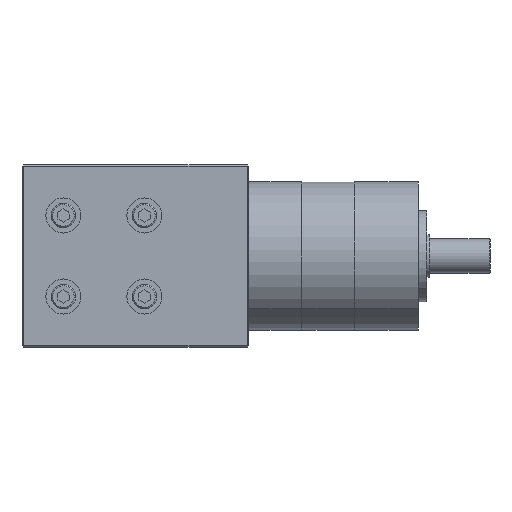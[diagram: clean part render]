
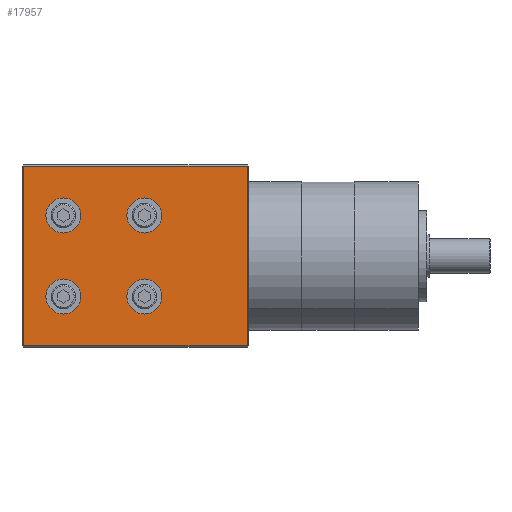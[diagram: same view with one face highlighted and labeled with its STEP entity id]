
A CAD part, front view. The second image highlights one B-rep face of the part: STEP entity #17957.
In plain terms, the highlighted planar face has unit normal (0, -1, 0).
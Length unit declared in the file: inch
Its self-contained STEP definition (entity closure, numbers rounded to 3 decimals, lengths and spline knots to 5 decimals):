
#215 = ORIENTED_EDGE ( 'NONE', *, *, #23178, .T. ) ;
#310 = AXIS2_PLACEMENT_3D ( 'NONE', #14259, #24760, #10077 ) ;
#694 = ORIENTED_EDGE ( 'NONE', *, *, #1891, .F. ) ;
#1035 = LINE ( 'NONE', #20815, #11475 ) ;
#1061 = EDGE_CURVE ( 'NONE', #2663, #8273, #1568, .T. ) ;
#1100 = EDGE_CURVE ( 'NONE', #3900, #26569, #22114, .T. ) ;
#1465 = CARTESIAN_POINT ( 'NONE',  ( 4.78104, -0.3548, 2.94555 ) ) ;
#1568 = CIRCLE ( 'NONE', #13680, 0.24094 ) ;
#1820 = CARTESIAN_POINT ( 'NONE',  ( 4.80104, -0.3548, 2.94555 ) ) ;
#1840 = CARTESIAN_POINT ( 'NONE',  ( 7.87404, -0.3548, 0.46555 ) ) ;
#1891 = EDGE_CURVE ( 'NONE', #6951, #12313, #6034, .T. ) ;
#1984 = ORIENTED_EDGE ( 'NONE', *, *, #25213, .F. ) ;
#2663 = VERTEX_POINT ( 'NONE', #3634 ) ;
#3014 = CARTESIAN_POINT ( 'NONE',  ( 6.46289, -0.3548, 1.13871 ) ) ;
#3076 = EDGE_LOOP ( 'NONE', ( #13886, #11147 ) ) ;
#3185 = CARTESIAN_POINT ( 'NONE',  ( 5.34919, -0.3548, 1.13871 ) ) ;
#3354 = DIRECTION ( 'NONE',  ( 0., -1., 0. ) ) ;
#3507 = DIRECTION ( 'NONE',  ( 0., 0., -1. ) ) ;
#3634 = CARTESIAN_POINT ( 'NONE',  ( 5.34919, -0.3548, 2.01145 ) ) ;
#3799 = CIRCLE ( 'NONE', #24529, 0.24094 ) ;
#3900 = VERTEX_POINT ( 'NONE', #21223 ) ;
#4189 = EDGE_CURVE ( 'NONE', #21489, #18710, #4280, .T. ) ;
#4280 = CIRCLE ( 'NONE', #310, 0.24094 ) ;
#4614 = DIRECTION ( 'NONE',  ( 0., 0., -1. ) ) ;
#4794 = DIRECTION ( 'NONE',  ( 0., -1., 0. ) ) ;
#4852 = CARTESIAN_POINT ( 'NONE',  ( 4.80104, -0.3548, 2.92555 ) ) ;
#5012 = EDGE_LOOP ( 'NONE', ( #20231, #8045, #215, #5752 ) ) ;
#5200 = DIRECTION ( 'NONE',  ( 0., 0., -1. ) ) ;
#5458 = LINE ( 'NONE', #23604, #13958 ) ;
#5520 = CARTESIAN_POINT ( 'NONE',  ( 4.78104, -0.3548, 0.46555 ) ) ;
#5742 = CARTESIAN_POINT ( 'NONE',  ( 5.34919, -0.3548, 1.37965 ) ) ;
#5752 = ORIENTED_EDGE ( 'NONE', *, *, #8557, .T. ) ;
#5912 = DIRECTION ( 'NONE',  ( -1., 0., 0. ) ) ;
#6034 = CIRCLE ( 'NONE', #23316, 0.24094 ) ;
#6503 = AXIS2_PLACEMENT_3D ( 'NONE', #1465, #9489, #18143 ) ;
#6951 = VERTEX_POINT ( 'NONE', #23787 ) ;
#6972 = EDGE_CURVE ( 'NONE', #26569, #12717, #5458, .T. ) ;
#7202 = DIRECTION ( 'NONE',  ( 0., -1., 0. ) ) ;
#7641 = DIRECTION ( 'NONE',  ( 0., -1., 0. ) ) ;
#7919 = DIRECTION ( 'NONE',  ( 0., 0., -1. ) ) ;
#8045 = ORIENTED_EDGE ( 'NONE', *, *, #6972, .T. ) ;
#8273 = VERTEX_POINT ( 'NONE', #11509 ) ;
#8557 = EDGE_CURVE ( 'NONE', #25622, #3900, #21658, .T. ) ;
#8869 = ORIENTED_EDGE ( 'NONE', *, *, #15542, .F. ) ;
#8930 = AXIS2_PLACEMENT_3D ( 'NONE', #3185, #4794, #4614 ) ;
#8975 = CARTESIAN_POINT ( 'NONE',  ( 6.46289, -0.3548, 2.01145 ) ) ;
#9489 = DIRECTION ( 'NONE',  ( 0., 1., 0. ) ) ;
#9770 = CARTESIAN_POINT ( 'NONE',  ( 5.34919, -0.3548, 2.2524 ) ) ;
#10077 = DIRECTION ( 'NONE',  ( 0., 0., -1. ) ) ;
#11137 = AXIS2_PLACEMENT_3D ( 'NONE', #22130, #26416, #3507 ) ;
#11147 = ORIENTED_EDGE ( 'NONE', *, *, #21777, .F. ) ;
#11279 = CARTESIAN_POINT ( 'NONE',  ( 5.34919, -0.3548, 1.13871 ) ) ;
#11475 = VECTOR ( 'NONE', #5912, 39.37008 ) ;
#11509 = CARTESIAN_POINT ( 'NONE',  ( 5.34919, -0.3548, 2.49334 ) ) ;
#11877 = PLANE ( 'NONE',  #6503 ) ;
#11924 = AXIS2_PLACEMENT_3D ( 'NONE', #9770, #18347, #12177 ) ;
#12143 = CARTESIAN_POINT ( 'NONE',  ( 5.34919, -0.3548, 2.2524 ) ) ;
#12177 = DIRECTION ( 'NONE',  ( 0., 0., -1. ) ) ;
#12313 = VERTEX_POINT ( 'NONE', #5742 ) ;
#12717 = VERTEX_POINT ( 'NONE', #15958 ) ;
#12826 = CARTESIAN_POINT ( 'NONE',  ( 6.46289, -0.3548, 2.49334 ) ) ;
#13171 = ORIENTED_EDGE ( 'NONE', *, *, #17855, .F. ) ;
#13408 = ORIENTED_EDGE ( 'NONE', *, *, #4189, .F. ) ;
#13680 = AXIS2_PLACEMENT_3D ( 'NONE', #12143, #7641, #14200 ) ;
#13886 = ORIENTED_EDGE ( 'NONE', *, *, #1061, .F. ) ;
#13958 = VECTOR ( 'NONE', #16839, 39.37008 ) ;
#14200 = DIRECTION ( 'NONE',  ( 0., 0., -1. ) ) ;
#14259 = CARTESIAN_POINT ( 'NONE',  ( 6.46289, -0.3548, 2.2524 ) ) ;
#14623 = FACE_BOUND ( 'NONE', #3076, .T. ) ;
#14983 = EDGE_LOOP ( 'NONE', ( #16069, #13171 ) ) ;
#15363 = DIRECTION ( 'NONE',  ( 0., -1., 0. ) ) ;
#15442 = AXIS2_PLACEMENT_3D ( 'NONE', #3014, #7202, #15684 ) ;
#15542 = EDGE_CURVE ( 'NONE', #12313, #6951, #22926, .T. ) ;
#15554 = CARTESIAN_POINT ( 'NONE',  ( 6.46289, -0.3548, 1.37965 ) ) ;
#15684 = DIRECTION ( 'NONE',  ( 0., 0., -1. ) ) ;
#15935 = CIRCLE ( 'NONE', #15442, 0.24094 ) ;
#15958 = CARTESIAN_POINT ( 'NONE',  ( 7.87404, -0.3548, 2.92555 ) ) ;
#16069 = ORIENTED_EDGE ( 'NONE', *, *, #21177, .F. ) ;
#16377 = CARTESIAN_POINT ( 'NONE',  ( 6.46289, -0.3548, 0.89776 ) ) ;
#16595 = FACE_OUTER_BOUND ( 'NONE', #5012, .T. ) ;
#16763 = VECTOR ( 'NONE', #7919, 39.37008 ) ;
#16839 = DIRECTION ( 'NONE',  ( 0., 0., 1. ) ) ;
#17855 = EDGE_CURVE ( 'NONE', #25751, #19653, #15935, .T. ) ;
#17957 = ADVANCED_FACE ( 'NONE', ( #16595, #14623, #26392, #21154, #25735 ), #11877, .F. ) ;
#18143 = DIRECTION ( 'NONE',  ( 0., 0., 1. ) ) ;
#18347 = DIRECTION ( 'NONE',  ( 0., -1., 0. ) ) ;
#18710 = VERTEX_POINT ( 'NONE', #12826 ) ;
#19653 = VERTEX_POINT ( 'NONE', #16377 ) ;
#20136 = DIRECTION ( 'NONE',  ( 1., 0., 0. ) ) ;
#20231 = ORIENTED_EDGE ( 'NONE', *, *, #1100, .T. ) ;
#20669 = CIRCLE ( 'NONE', #11137, 0.24094 ) ;
#20815 = CARTESIAN_POINT ( 'NONE',  ( 4.78104, -0.3548, 2.92555 ) ) ;
#21154 = FACE_BOUND ( 'NONE', #14983, .T. ) ;
#21177 = EDGE_CURVE ( 'NONE', #19653, #25751, #20669, .T. ) ;
#21223 = CARTESIAN_POINT ( 'NONE',  ( 4.80104, -0.3548, 0.46555 ) ) ;
#21489 = VERTEX_POINT ( 'NONE', #8975 ) ;
#21658 = LINE ( 'NONE', #1820, #16763 ) ;
#21777 = EDGE_CURVE ( 'NONE', #8273, #2663, #26160, .T. ) ;
#21885 = DIRECTION ( 'NONE',  ( 0., 0., -1. ) ) ;
#21969 = CARTESIAN_POINT ( 'NONE',  ( 6.46289, -0.3548, 2.2524 ) ) ;
#22114 = LINE ( 'NONE', #5520, #22758 ) ;
#22130 = CARTESIAN_POINT ( 'NONE',  ( 6.46289, -0.3548, 1.13871 ) ) ;
#22758 = VECTOR ( 'NONE', #20136, 39.37008 ) ;
#22926 = CIRCLE ( 'NONE', #8930, 0.24094 ) ;
#23178 = EDGE_CURVE ( 'NONE', #12717, #25622, #1035, .T. ) ;
#23316 = AXIS2_PLACEMENT_3D ( 'NONE', #11279, #15363, #5200 ) ;
#23604 = CARTESIAN_POINT ( 'NONE',  ( 7.87404, -0.3548, 2.94555 ) ) ;
#23696 = EDGE_LOOP ( 'NONE', ( #694, #8869 ) ) ;
#23787 = CARTESIAN_POINT ( 'NONE',  ( 5.34919, -0.3548, 0.89776 ) ) ;
#24294 = EDGE_LOOP ( 'NONE', ( #13408, #1984 ) ) ;
#24529 = AXIS2_PLACEMENT_3D ( 'NONE', #21969, #3354, #21885 ) ;
#24760 = DIRECTION ( 'NONE',  ( 0., -1., 0. ) ) ;
#25213 = EDGE_CURVE ( 'NONE', #18710, #21489, #3799, .T. ) ;
#25622 = VERTEX_POINT ( 'NONE', #4852 ) ;
#25735 = FACE_BOUND ( 'NONE', #24294, .T. ) ;
#25751 = VERTEX_POINT ( 'NONE', #15554 ) ;
#26160 = CIRCLE ( 'NONE', #11924, 0.24094 ) ;
#26392 = FACE_BOUND ( 'NONE', #23696, .T. ) ;
#26416 = DIRECTION ( 'NONE',  ( 0., -1., 0. ) ) ;
#26569 = VERTEX_POINT ( 'NONE', #1840 ) ;
